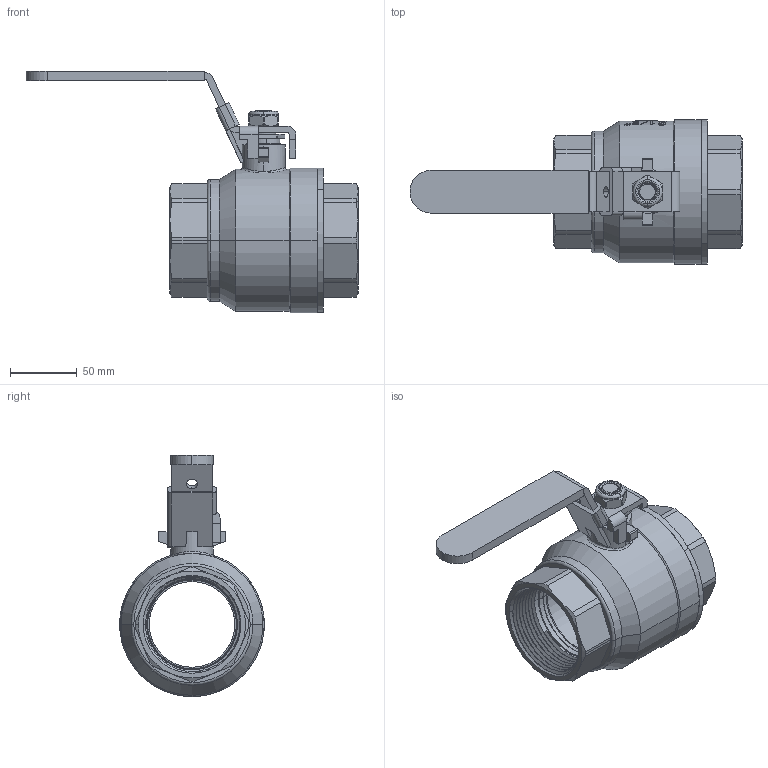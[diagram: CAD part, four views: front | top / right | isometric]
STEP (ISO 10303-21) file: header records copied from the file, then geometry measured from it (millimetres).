
FILE_DESCRIPTION(('Open CASCADE Model'),'2;1');
FILE_NAME('Open CASCADE Shape Model','2021-12-13T11:03:36',('Author'),( 'Open CASCADE'),'Open CASCADE STEP processor 7.3','Open CASCADE 7.3' ,'Unknown');
FILE_SCHEMA(('AUTOMOTIVE_DESIGN { 1 0 10303 214 1 1 1 1 }'));
Length unit declared in the file: millimetre
Products named in the file (13): Open CASCADE STEP translator 7.3 1; Open CASCADE STEP translator 7.3 1.1; Open CASCADE STEP translator 7.3 1.2; Open CASCADE STEP translator 7.3 1.3; Open CASCADE STEP translator 7.3 1.4; Open CASCADE STEP translator 7.3 1.5; Open CASCADE STEP translator 7.3 1.6; Open CASCADE STEP translator 7.3 1.7; Open CASCADE STEP translator 7.3 1.8; Open CASCADE STEP translator 7.3 1.9; Open CASCADE STEP translator 7.3 1.10; Open CASCADE STEP translator 7.3 1.11; Open CASCADE STEP translator 7.3 1.12
Assembly tree (12 placements, depth 2):
  Open CASCADE STEP translator 7.3 1
    Open CASCADE STEP translator 7.3 1.1
    Open CASCADE STEP translator 7.3 1.2
    Open CASCADE STEP translator 7.3 1.3
    Open CASCADE STEP translator 7.3 1.4
    Open CASCADE STEP translator 7.3 1.5
    Open CASCADE STEP translator 7.3 1.6
    Open CASCADE STEP translator 7.3 1.7
    Open CASCADE STEP translator 7.3 1.8
    Open CASCADE STEP translator 7.3 1.9
    Open CASCADE STEP translator 7.3 1.10
    Open CASCADE STEP translator 7.3 1.11
    Open CASCADE STEP translator 7.3 1.12
Bounding box: 248 x 108 x 180.3 mm (x, y, z)
Volume: 444550.6 mm3; surface area: 234857.2 mm2
Topology: 12 solids, 13 shells, 695 faces, 1838 edges, 1188 vertices
Faces by surface type: cylinder 209, plane 208, bspline 128, cone 118, torus 24, sphere 8
Entity records: 153991 total; most frequent: CARTESIAN_POINT 121327, DIRECTION 4832, ORIENTED_EDGE 3668, PCURVE 3668, DEFINITIONAL_REPRESENTATION 3668, LINE 2551, VECTOR 2551, B_SPLINE_CURVE_WITH_KNOTS 1980
